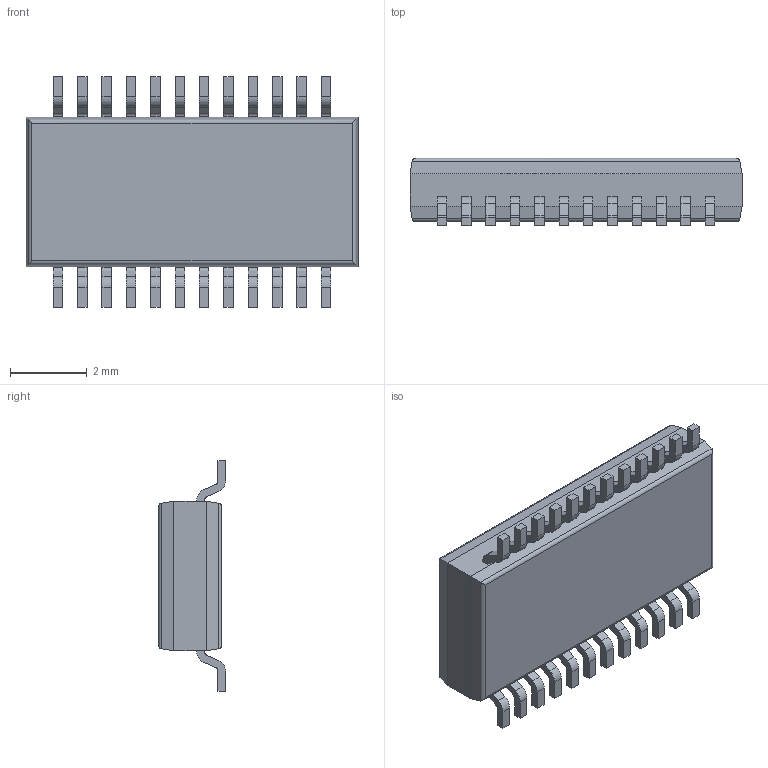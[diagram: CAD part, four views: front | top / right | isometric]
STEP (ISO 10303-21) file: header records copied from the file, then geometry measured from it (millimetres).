
FILE_DESCRIPTION (( 'STEP AP214' ), '1' );
FILE_NAME ( 'SOP63P600X175-24.STEP', '2013-08-13T09:30:03', ( '' ), ( '' ), 'FPX Expert 2013', 'PCB Libraries', '' );
FILE_SCHEMA (( 'AUTOMOTIVE_DESIGN' ));
Length unit declared in the file: millimetre
Products named in the file (1): SOP63P600X175-24
Bounding box: 8.65 x 1.75 x 6 mm (x, y, z)
Volume: 56.5 mm3; surface area: 135.7 mm2
Topology: 25 solids, 25 shells, 361 faces, 914 edges, 604 vertices
Faces by surface type: plane 255, cylinder 104, torus 2
Entity records: 11951 total; most frequent: CARTESIAN_POINT 1904, DIRECTION 1828, ORIENTED_EDGE 1828, EDGE_CURVE 914, VECTOR 708, LINE 708, VERTEX_POINT 604, AXIS2_PLACEMENT_3D 560
